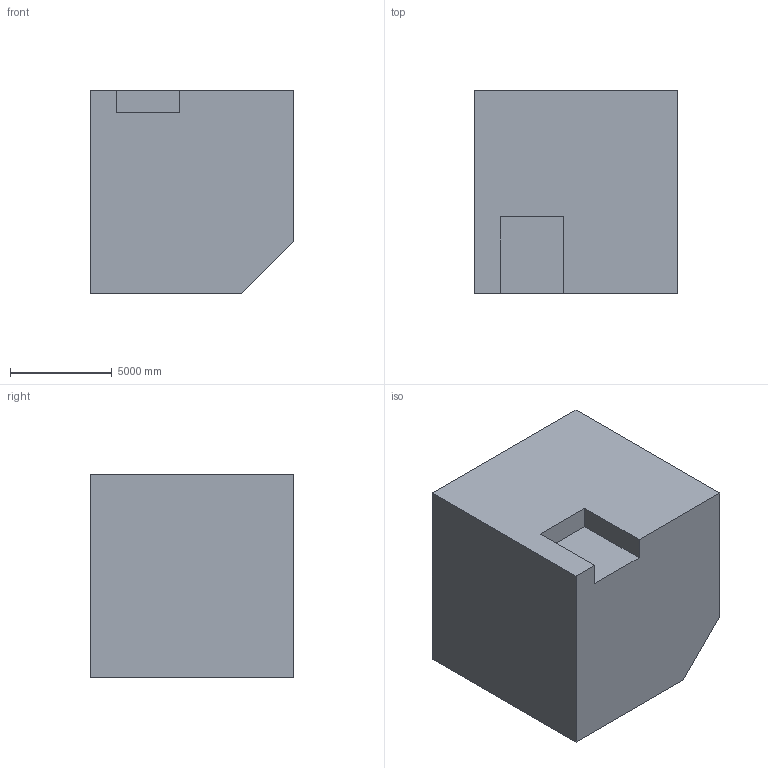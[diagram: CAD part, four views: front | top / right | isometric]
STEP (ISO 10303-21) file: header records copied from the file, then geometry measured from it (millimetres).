
FILE_DESCRIPTION (( 'STEP AP203' ), '1' );
FILE_NAME ('1151.STEP', '2022-08-18T12:57:44', ( 'user' ), ( '' ), 'SwSTEP 2.0', 'SolidWorks 2021', '' );
FILE_SCHEMA (( 'CONFIG_CONTROL_DESIGN' ));
Length unit declared in the file: centimetre
Products named in the file (1): 1151
Bounding box: 10000 x 10000 x 10000 mm (x, y, z)
Volume: 954084582466.5 mm3; surface area: 586633873.8 mm2
Topology: 1 solids, 1 shells, 11 faces, 27 edges, 18 vertices
Faces by surface type: plane 11
Entity records: 398 total; most frequent: CARTESIAN_POINT 57, ORIENTED_EDGE 54, DIRECTION 51, VECTOR 27, LINE 27, EDGE_CURVE 27, VERTEX_POINT 18, AXIS2_PLACEMENT_3D 12
